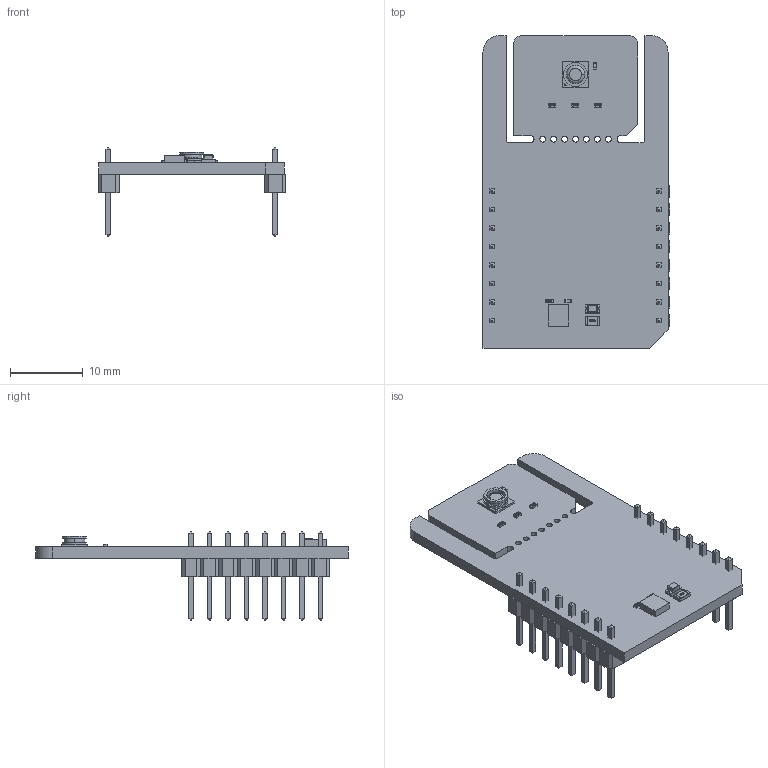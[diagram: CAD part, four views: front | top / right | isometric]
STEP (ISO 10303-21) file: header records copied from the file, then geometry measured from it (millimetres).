
FILE_DESCRIPTION(('Open CASCADE Model'),'2;1');
FILE_NAME('Open CASCADE Shape Model','2026-03-19T15:36:46',('Author'),( 'Open CASCADE'),'Open CASCADE STEP processor 6.8','Open CASCADE 6.8' ,'Unknown');
FILE_SCHEMA(('AUTOMOTIVE_DESIGN { 1 0 10303 214 1 1 1 1 }'));
Length unit declared in the file: millimetre
Products named in the file (29): PCB; Board; R1; User_Library-R_0805; LD1; led_0805_green; R2; User_Library-R_0402; C1; User_Library-SMD_CAPACITOR0402; U1; 737704024; Extruded; MBD1; Header_1x8; Free-Models; 1240637040; User_Library-PinHeaderX5-1_PinHeaderX5_Body_1; User_Library-PinHeaderX5-1_PinHeaderX5_Pins_1; C2; R3; R4; R5; U2; 794790896; ISPC065_P0; ISCS056_P0; GLUE
Assembly tree (34 placements, depth 7):
  PCB
    Board
    R1
      User_Library-R_0805
    LD1
      led_0805_green
    R2
      User_Library-R_0402
    C1
      User_Library-SMD_CAPACITOR0402
    U1
      737704024
        Extruded
    MBD1
      Header_1x8  x2
        PCB
          Free-Models
            1240637040  x2
              User_Library-PinHeaderX5-1_PinHeaderX5_Body_1
              User_Library-PinHeaderX5-1_PinHeaderX5_Pins_1
    C2
      User_Library-SMD_CAPACITOR0402
    R3
      User_Library-R_0402
    R4
      User_Library-R_0402
    R5
      User_Library-R_0402
    U2
      794790896
        ISPC065_P0
        ISCS056_P0
        GLUE
Bounding box: 25.78 x 42.93 x 12.19 mm (x, y, z)
Volume: 2148.5 mm3; surface area: 3891.2 mm2
Topology: 36 solids, 36 shells, 1204 faces, 3006 edges, 1918 vertices
Faces by surface type: plane 965, bspline 148, cylinder 71, sphere 20
Full cylindrical faces by diameter (mm): 0.8 x7
Entity records: 23546 total; most frequent: CARTESIAN_POINT 7304, ORIENTED_EDGE 2732, DIRECTION 2384, EDGE_CURVE 1366, LINE 1108, VECTOR 1108, VERTEX_POINT 886, AXIS2_PLACEMENT_3D 638
